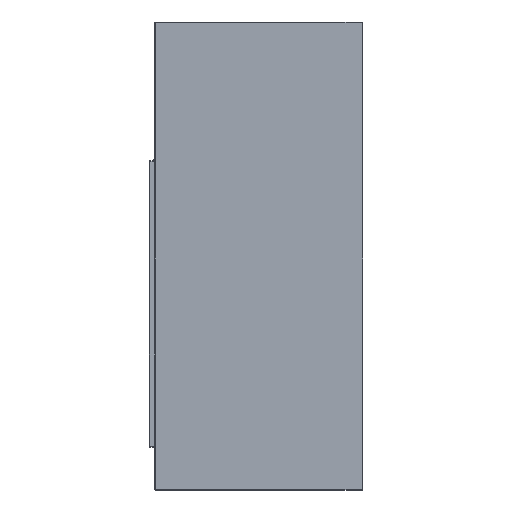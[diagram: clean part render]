
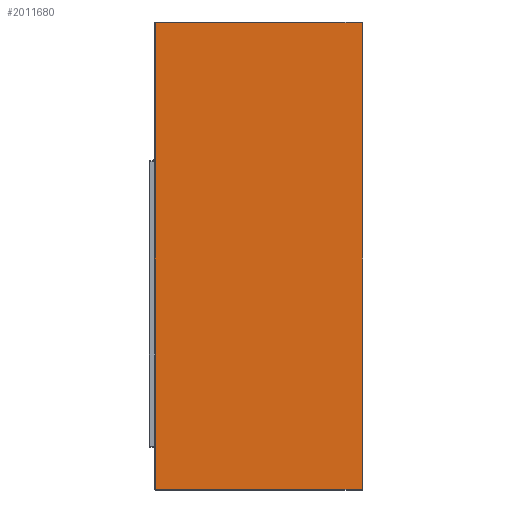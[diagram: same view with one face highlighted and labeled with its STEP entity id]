
A CAD part, top view. The second image highlights one B-rep face of the part: STEP entity #2011680.
In plain terms, the highlighted free-form (B-spline) face has degree [1, 1] with [2, 2] control points.
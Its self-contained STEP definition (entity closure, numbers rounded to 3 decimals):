
#2011330 = CARTESIAN_POINT ('', (-398., 898., 363.425));
#2011340 = VERTEX_POINT ('', #2011330);
#2011350 = CARTESIAN_POINT ('', (-398., -898., 363.425));
#2011360 = VERTEX_POINT ('', #2011350);
#2011370 = CARTESIAN_POINT ('', (-398., 898., 363.425));
#2011380 = CARTESIAN_POINT ('', (-398., -898., 363.425));
#2011390 = (
   BOUNDED_CURVE ()
   B_SPLINE_CURVE (1, (#2011370, #2011380), .UNSPECIFIED., .F., .U.)
   B_SPLINE_CURVE_WITH_KNOTS ((2, 2), (0., 1796.), .UNSPECIFIED.)
   CURVE ()
   GEOMETRIC_REPRESENTATION_ITEM ()
   RATIONAL_B_SPLINE_CURVE ((1., 1.))
   REPRESENTATION_ITEM ('')
);
#2011400 = EDGE_CURVE ('', #2011340, #2011360, #2011390, .T.);
#2011410 = ORIENTED_EDGE ('', *, *, #2011400, .T.);
#2011420 = CARTESIAN_POINT ('', (398., -898., 363.425));
#2011430 = VERTEX_POINT ('', #2011420);
#2011440 = CARTESIAN_POINT ('', (-398., -898., 363.425));
#2011450 = CARTESIAN_POINT ('', (398., -898., 363.425));
#2011460 = (
   BOUNDED_CURVE ()
   B_SPLINE_CURVE (1, (#2011440, #2011450), .UNSPECIFIED., .F., .U.)
   B_SPLINE_CURVE_WITH_KNOTS ((2, 2), (0., 796.), .UNSPECIFIED.)
   CURVE ()
   GEOMETRIC_REPRESENTATION_ITEM ()
   RATIONAL_B_SPLINE_CURVE ((1., 1.))
   REPRESENTATION_ITEM ('')
);
#2011470 = EDGE_CURVE ('', #2011360, #2011430, #2011460, .T.);
#2011480 = ORIENTED_EDGE ('', *, *, #2011470, .T.);
#2011490 = CARTESIAN_POINT ('', (398., 898., 363.425));
#2011500 = VERTEX_POINT ('', #2011490);
#2011510 = CARTESIAN_POINT ('', (398., -898., 363.425));
#2011520 = CARTESIAN_POINT ('', (398., 898., 363.425));
#2011530 = (
   BOUNDED_CURVE ()
   B_SPLINE_CURVE (1, (#2011510, #2011520), .UNSPECIFIED., .F., .U.)
   B_SPLINE_CURVE_WITH_KNOTS ((2, 2), (0., 1796.), .UNSPECIFIED.)
   CURVE ()
   GEOMETRIC_REPRESENTATION_ITEM ()
   RATIONAL_B_SPLINE_CURVE ((1., 1.))
   REPRESENTATION_ITEM ('')
);
#2011540 = EDGE_CURVE ('', #2011430, #2011500, #2011530, .T.);
#2011550 = ORIENTED_EDGE ('', *, *, #2011540, .T.);
#2011560 = CARTESIAN_POINT ('', (398., 898., 363.425));
#2011570 = CARTESIAN_POINT ('', (-398., 898., 363.425));
#2011580 = (
   BOUNDED_CURVE ()
   B_SPLINE_CURVE (1, (#2011560, #2011570), .UNSPECIFIED., .F., .U.)
   B_SPLINE_CURVE_WITH_KNOTS ((2, 2), (0., 796.), .UNSPECIFIED.)
   CURVE ()
   GEOMETRIC_REPRESENTATION_ITEM ()
   RATIONAL_B_SPLINE_CURVE ((1., 1.))
   REPRESENTATION_ITEM ('')
);
#2011590 = EDGE_CURVE ('', #2011500, #2011340, #2011580, .T.);
#2011600 = ORIENTED_EDGE ('', *, *, #2011590, .T.);
#2011610 = EDGE_LOOP ('', (#2011410, #2011480, #2011550, #2011600));
#2011620 = FACE_OUTER_BOUND ('', #2011610, .T.);
#2011630 = CARTESIAN_POINT ('', (1514.332, -2271.497, 363.425));
#2011640 = CARTESIAN_POINT ('', (-1514.332, -2271.497, 363.425));
#2011650 = CARTESIAN_POINT ('', (1514.332, 2271.497, 363.425));
#2011660 = CARTESIAN_POINT ('', (-1514.332, 2271.497, 363.425));
#2011670 = B_SPLINE_SURFACE_WITH_KNOTS ('', 1, 1, ((#2011630, #2011640), (#2011650, #2011660)), .UNSPECIFIED., .F., .F., .U., (2, 2), (2, 2), (0., 1.), (0., 1.), .UNSPECIFIED.);
#2011680 = ADVANCED_FACE ('', (#2011620), #2011670, .T.);
